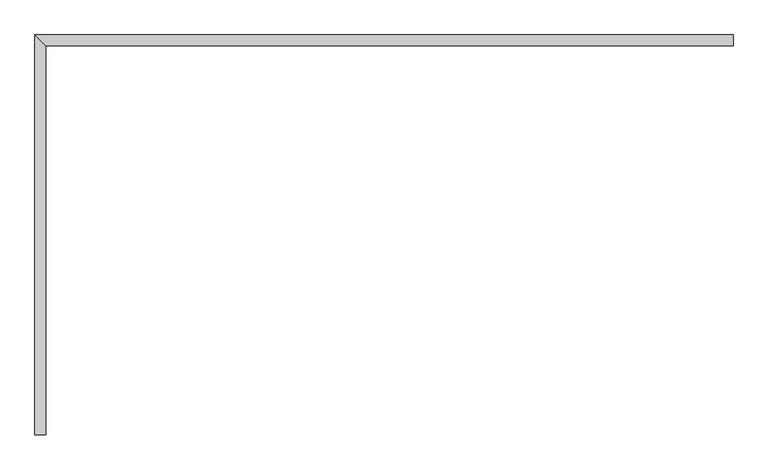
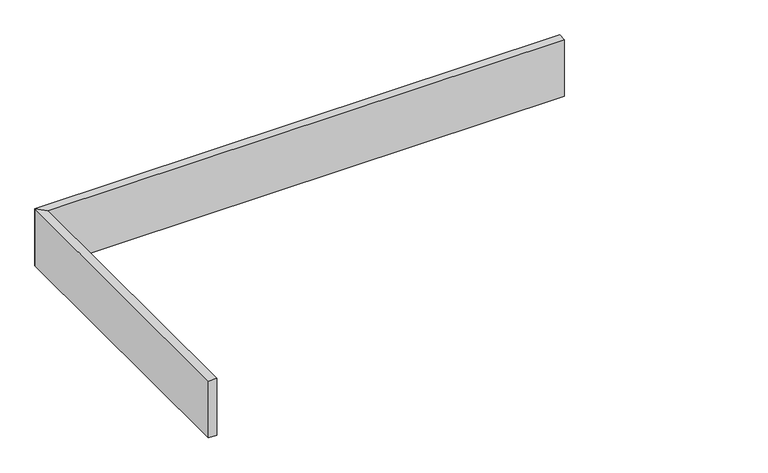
"""IFC4 building model written with IfcOpenShell, lengths in millimetres: proxy geometry, FOUNDATION^PO 3_WALL HUNG WORK WALL SHELF-PARTS SOLID."""

from ifc_helpers import new_model, si_unit, origin, origin_with_axes, place, context, project, spatial, polyline, outline, extrude, source, transform, mapped, element, save


def generic_models_c44e4d4c(model_context):
    return source(origin(), model_context, "Body", "SweptSolid", [
        extrude(outline(polyline([(2438.4, 1397.0), (2438.4, 1358.9), (38.1, 1358.9), (0.0, 1397.0), (2438.4, 1397.0)])), origin_with_axes(), (0.0, 0.0, 1.0), 279.4),
        extrude(outline(polyline([(0.0, 0.0), (0.0, 1397.0), (38.1, 1358.9), (38.1, 0.0), (0.0, 0.0)])), origin_with_axes(), (0.0, 0.0, 1.0), 279.4),
    ])


if __name__ == "__main__":
    model = new_model("IFC4")
    model_context = context("Model", 3, world=origin())
    ifc_project = project(units=[si_unit("LENGTHUNIT", "METRE", prefix="MILLI")], contexts=[model_context])
    site = spatial("IfcSite", under=ifc_project)
    building = spatial("IfcBuilding", under=site)
    placement = place(None, origin())
    generic_models_shape = generic_models_c44e4d4c(model_context)
    element("IfcBuildingElementProxy", 1, Name="FOUNDATION^PO 3_WALL HUNG WORK WALL SHELF-PARTS SOLID", ObjectType="FOUNDATION^PO 3_WALL HUNG WORK WALL SHELF-PARTS SOLID", at=placement, inside=building, context=model_context, shape_type="MappedRepresentation", body=[
        mapped(generic_models_shape, transform((0.0, 0.0, 0.0), x_axis=(1.0, 0.0, 0.0), y_axis=(0.0, 1.0, 0.0), z_axis=(0.0, 0.0, 1.0))),
    ])
    save(model, "model.ifc")
